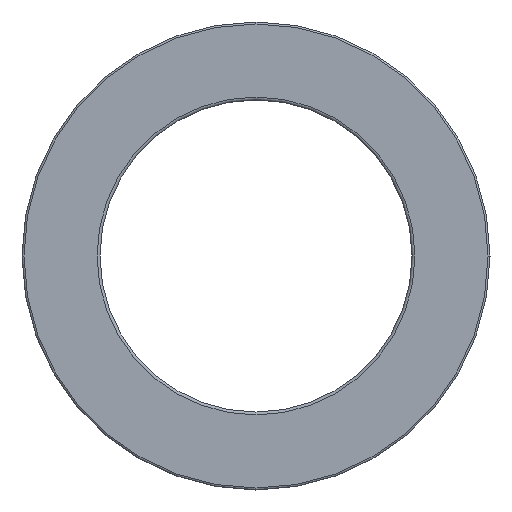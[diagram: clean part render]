
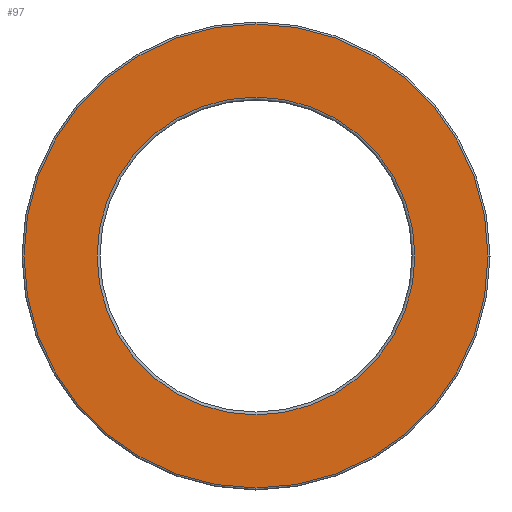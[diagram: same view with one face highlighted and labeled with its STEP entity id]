
A CAD part, left-side view. The second image highlights one B-rep face of the part: STEP entity #97.
In plain terms, the highlighted planar face has unit normal (-1, 0, 0).
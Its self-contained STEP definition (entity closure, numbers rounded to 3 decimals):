
#97=ADVANCED_FACE('',(#166,#167),#168,.F.);
#166=FACE_BOUND('',#238,.T.);
#167=FACE_OUTER_BOUND('',#239,.T.);
#168=PLANE('',#240);
#238=EDGE_LOOP('',(#354));
#239=EDGE_LOOP('',(#355));
#240=AXIS2_PLACEMENT_3D('',#356,#357,#358);
#354=ORIENTED_EDGE('',*,*,#386,.F.);
#355=ORIENTED_EDGE('',*,*,#387,.T.);
#356=CARTESIAN_POINT('',(0.0,44.619,0.0));
#357=DIRECTION('',(1.0,0.0,0.0));
#358=DIRECTION('',(0.0,0.0,-1.0));
#386=EDGE_CURVE('',#432,#432,#433,.T.);
#387=EDGE_CURVE('',#434,#434,#435,.T.);
#432=VERTEX_POINT('',#480);
#433=CIRCLE('',#481,30.558);
#434=VERTEX_POINT('',#482);
#435=CIRCLE('',#483,44.619);
#480=CARTESIAN_POINT('',(0.0,0.0,30.558));
#481=AXIS2_PLACEMENT_3D('',#550,#551,#552);
#482=CARTESIAN_POINT('',(0.0,0.0,44.619));
#483=AXIS2_PLACEMENT_3D('',#553,#554,#555);
#550=CARTESIAN_POINT('',(0.0,0.0,0.0));
#551=DIRECTION('',(-1.0,0.0,0.0));
#552=DIRECTION('',(0.0,0.0,1.0));
#553=CARTESIAN_POINT('',(0.0,0.0,0.0));
#554=DIRECTION('',(-1.0,0.0,0.0));
#555=DIRECTION('',(0.0,0.0,1.0));
